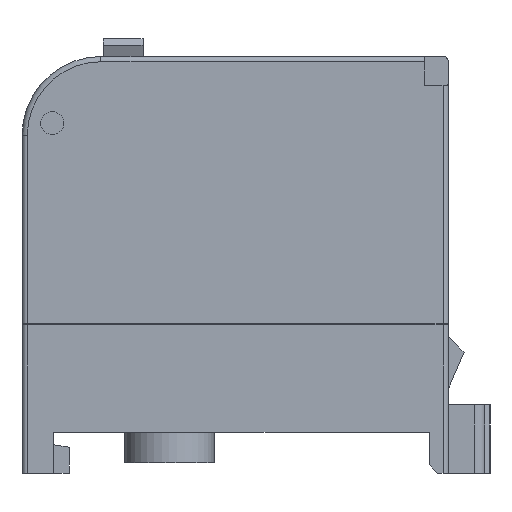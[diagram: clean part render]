
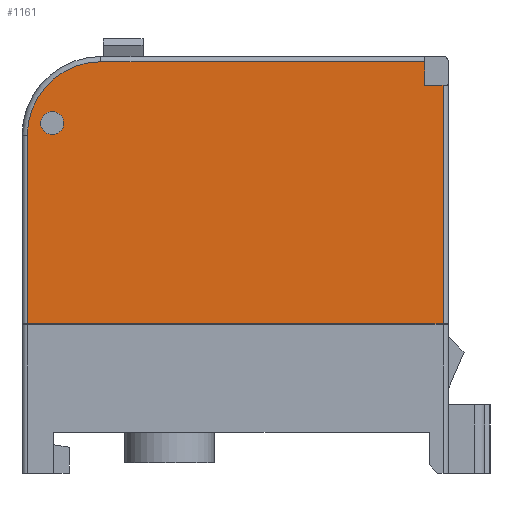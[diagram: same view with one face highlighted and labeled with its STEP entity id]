
A CAD part, left-side view. The second image highlights one B-rep face of the part: STEP entity #1161.
In plain terms, the highlighted planar face has unit normal (-1, 0, 0).
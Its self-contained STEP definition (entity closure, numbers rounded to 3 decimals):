
#484=FACE_BOUND('',#3033,.T.);
#485=FACE_BOUND('',#3034,.T.);
#602=CIRCLE('',#13985,7.);
#603=CIRCLE('',#13986,1.1);
#1161=ADVANCED_FACE('',(#484,#485),#1747,.T.);
#1747=PLANE('',#13987);
#3033=EDGE_LOOP('',(#5756,#5757,#5758,#5759,#5760,#5761,#5762));
#3034=EDGE_LOOP('',(#5763));
#5756=ORIENTED_EDGE('',*,*,#8357,.F.);
#5757=ORIENTED_EDGE('',*,*,#9049,.F.);
#5758=ORIENTED_EDGE('',*,*,#9522,.T.);
#5759=ORIENTED_EDGE('',*,*,#9526,.T.);
#5760=ORIENTED_EDGE('',*,*,#9625,.F.);
#5761=ORIENTED_EDGE('',*,*,#9626,.F.);
#5762=ORIENTED_EDGE('',*,*,#9627,.F.);
#5763=ORIENTED_EDGE('',*,*,#9628,.T.);
#7125=VERTEX_POINT('',#17919);
#7126=VERTEX_POINT('',#17921);
#7610=VERTEX_POINT('',#19315);
#7888=VERTEX_POINT('',#20963);
#7890=VERTEX_POINT('',#20970);
#7963=VERTEX_POINT('',#21200);
#7964=VERTEX_POINT('',#21204);
#7965=VERTEX_POINT('',#21207);
#8357=EDGE_CURVE('',#7125,#7126,#10260,.T.);
#9049=EDGE_CURVE('',#7610,#7125,#10922,.T.);
#9522=EDGE_CURVE('',#7610,#7888,#11265,.T.);
#9526=EDGE_CURVE('',#7888,#7890,#11269,.T.);
#9625=EDGE_CURVE('',#7963,#7890,#11318,.T.);
#9626=EDGE_CURVE('',#7964,#7963,#602,.T.);
#9627=EDGE_CURVE('',#7126,#7964,#11319,.T.);
#9628=EDGE_CURVE('',#7965,#7965,#603,.T.);
#10260=LINE('',#17920,#11820);
#10922=LINE('',#19316,#12482);
#11265=LINE('',#20962,#12857);
#11269=LINE('',#20969,#12861);
#11318=LINE('',#21201,#12910);
#11319=LINE('',#21205,#12911);
#11820=VECTOR('',#14384,1.);
#12482=VECTOR('',#15544,1.);
#12857=VECTOR('',#16445,1.);
#12861=VECTOR('',#16451,1.);
#12910=VECTOR('',#16638,1.);
#12911=VECTOR('',#16643,1.);
#13985=AXIS2_PLACEMENT_3D('',#21203,#16641,#16642);
#13986=AXIS2_PLACEMENT_3D('',#21206,#16644,#16645);
#13987=AXIS2_PLACEMENT_3D('',#21208,#16646,#16647);
#14384=DIRECTION('',(0.,1.,0.));
#15544=DIRECTION('',(0.,0.,-1.));
#16445=DIRECTION('',(0.,1.,0.));
#16451=DIRECTION('',(0.,0.,1.));
#16638=DIRECTION('',(0.,-1.,0.));
#16641=DIRECTION('',(1.,0.,0.));
#16642=DIRECTION('',(0.,0.707,0.707));
#16643=DIRECTION('',(0.,0.,1.));
#16644=DIRECTION('',(1.,0.,0.));
#16645=DIRECTION('',(0.,1.,0.));
#16646=DIRECTION('',(-1.,0.,0.));
#16647=DIRECTION('',(0.,1.,0.));
#17919=CARTESIAN_POINT('',(-17.25,-63.8,94.2));
#17920=CARTESIAN_POINT('',(-17.25,-44.596,94.2));
#17921=CARTESIAN_POINT('',(-17.25,-24.3,94.2));
#19315=CARTESIAN_POINT('',(-17.25,-63.8,116.85));
#19316=CARTESIAN_POINT('',(-17.25,-63.8,116.85));
#20962=CARTESIAN_POINT('',(-17.25,-63.8,116.85));
#20963=CARTESIAN_POINT('',(-17.25,-62.05,116.85));
#20969=CARTESIAN_POINT('',(-17.25,-62.05,116.85));
#20970=CARTESIAN_POINT('',(-17.25,-62.05,119.1));
#21200=CARTESIAN_POINT('',(-17.25,-31.3,119.1));
#21201=CARTESIAN_POINT('',(-17.25,-31.3,119.1));
#21203=CARTESIAN_POINT('',(-17.25,-31.3,112.1));
#21204=CARTESIAN_POINT('',(-17.25,-24.3,112.1));
#21205=CARTESIAN_POINT('',(-17.25,-24.3,94.));
#21206=CARTESIAN_POINT('',(-17.25,-26.663,113.277));
#21207=CARTESIAN_POINT('',(-17.25,-25.563,113.277));
#21208=CARTESIAN_POINT('',(-17.25,-44.596,106.44));
